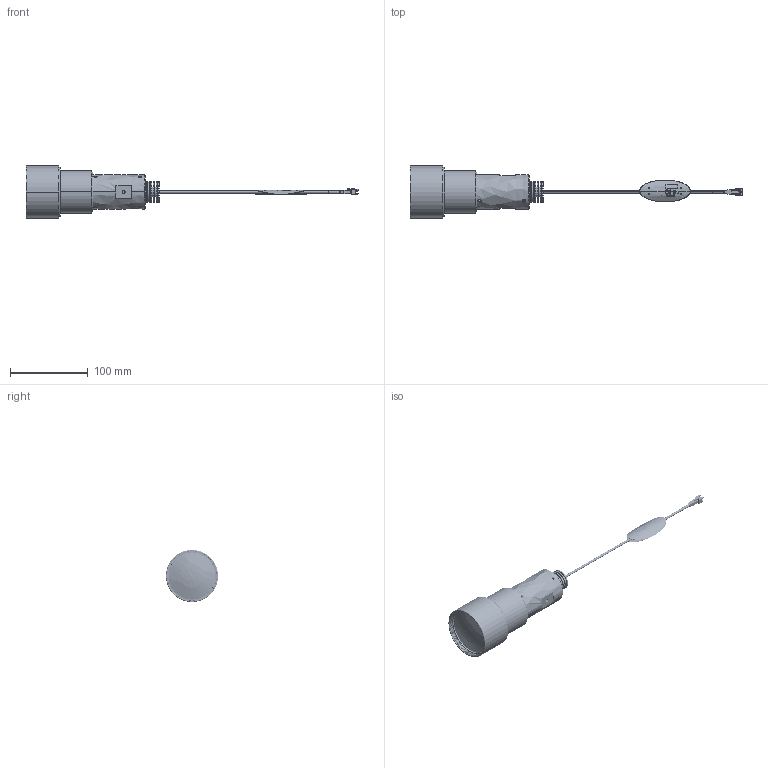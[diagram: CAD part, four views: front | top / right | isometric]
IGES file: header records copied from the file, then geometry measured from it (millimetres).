
Start section: 3D InterOp IGES (v. 2019 1.0.2), Spatial Corp. Copyright (c) 1999-2017.
Global section: file name: VCL-60-2P_DRAWING_3D.iges; native system: Spatial Corp.; preprocessor: 3D InterOp ACIS/IGES; author: Noname; organization: Noname; date: 20240304.115446; units: millimetre
Bounding box: 427 x 67 x 67 mm (x, y, z)
Surface area: 94272.6 mm2 (no closed solid volume)
Topology: 0 solids, 0 shells, 728 faces, 10412 edges, 10402 vertices
Faces by surface type: revolution 462, extrusion 203, bspline 63
